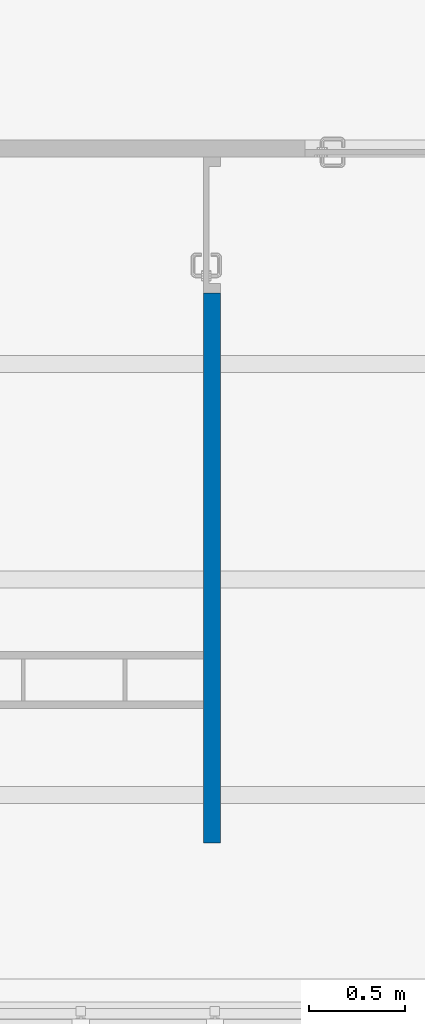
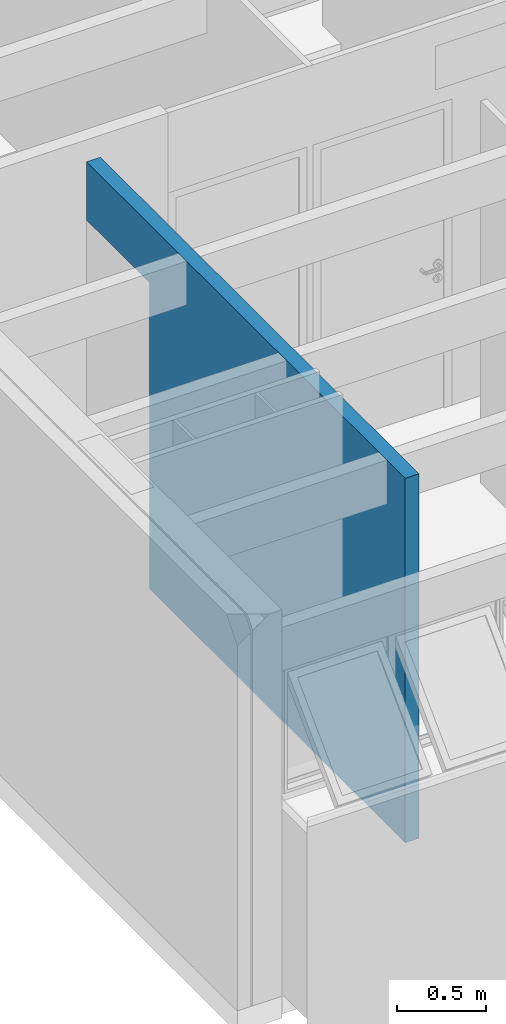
# One storey, part 32 of 40: 1 wall, 1 opening.
"""IFC4 building model written with IfcOpenShell, lengths in millimetres."""

from ifc_helpers import new_model, entity, si_unit, converted_unit, derived_unit, direction, frame, origin_with_axes, origin_2d_with_axis, place, context, subcontext, project, spatial, line, indexed_curve, rectangle, outline, extrude, material, layer, layer_set, layer_usage, type_object, element, save


model = new_model("IFC4")

# Units and contexts
model_context = context("Model", 3, precision=0.01, world=origin_with_axes(), true_north=direction((0.0, 1.0)))
body_context = subcontext(model_context, "Body", "Model", "MODEL_VIEW")
ifc_project = project(units=[si_unit("LENGTHUNIT", "METRE", prefix="MILLI"), si_unit("AREAUNIT", "SQUARE_METRE"), si_unit("VOLUMEUNIT", "CUBIC_METRE"), converted_unit("PLANEANGLEUNIT", "DEGREE", entity("IfcPlaneAngleMeasure", 0.0174532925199), si_unit("PLANEANGLEUNIT", "RADIAN"), dimensions=[0, 0, 0, 0, 0, 0, 0]), converted_unit("TIMEUNIT", "Year", entity("IfcTimeMeasure", 31556926.0), si_unit("TIMEUNIT", "SECOND"), dimensions=[0, 0, 1, 0, 0, 0, 0]), si_unit("MASSUNIT", "GRAM", prefix="KILO"), si_unit("THERMODYNAMICTEMPERATUREUNIT", "DEGREE_CELSIUS"), si_unit("LUMINOUSINTENSITYUNIT", "LUMEN"), si_unit("ENERGYUNIT", "JOULE", prefix="MEGA"), derived_unit("THERMALCONDUCTANCEUNIT", [(si_unit("POWERUNIT", "WATT"), 1), (si_unit("LENGTHUNIT", "METRE"), -1), (si_unit("THERMODYNAMICTEMPERATUREUNIT", "KELVIN"), -1)]), derived_unit("SPECIFICHEATCAPACITYUNIT", [(si_unit("ENERGYUNIT", "JOULE"), 1), (si_unit("MASSUNIT", "GRAM", prefix="KILO"), -1), (si_unit("THERMODYNAMICTEMPERATUREUNIT", "KELVIN"), -1)]), derived_unit("MASSDENSITYUNIT", [(si_unit("MASSUNIT", "GRAM", prefix="KILO"), 1), (si_unit("VOLUMEUNIT", "CUBIC_METRE"), -1)])], contexts=[model_context])

# Site, building, storey
site_placement = place(None, origin_with_axes())
site = spatial("IfcSite", under=ifc_project, at=site_placement, Name="Local", CompositionType="ELEMENT")
building_placement = place(site_placement, origin_with_axes())
building = spatial("IfcBuilding", under=site, at=building_placement, Name="Construção", CompositionType="ELEMENT")
storey_placement = place(building_placement, origin_with_axes())
storey = spatial("IfcBuildingStorey", under=building, at=storey_placement, Name="Primeiro Pavimento", CompositionType="ELEMENT", Elevation=0.0)

# Wall, opening
ifc_material = material(Name="GENÉRICO - VEDAÇÃO EXTERNA")
ifc_layer = layer(ifc_material, 90.0, ventilated="UNKNOWN", Name="GENÉRICO - VEDAÇÃO EXTERNA")
ifc_layer_set = layer_set([ifc_layer], Name="GENÉRICO - VEDAÇÃO EXTERNA 90")
ifc_layer_usage = layer_usage(ifc_layer_set, "AXIS2", "POSITIVE", 0.0)
wall_type = type_object("IfcWallType", Name="GENÉRICO - VEDAÇÃO EXTERNA 90", PredefinedType="NOTDEFINED")
wall_placement = place(storey_placement, frame((1730.0, 18814.7804333, 0.0), z_axis=(0.0, 0.0, 1.0), x_axis=(0.0, 1.0, 0.0)))
wall = element("IfcWall", 1, at=wall_placement, inside=storey, type_object=wall_type, material=ifc_layer_usage, Name="APTO3-PAREDE-012", PredefinedType="NOTDEFINED", context=body_context, shape_type="SweptSolid", body=[
    extrude(outline(indexed_curve([(0.0, 0.0), (3580.0, 0.0), (3580.0, 90.0), (0.0, 90.0)], segments=[line(1, 2, 3, 4, 1)])), origin_with_axes(), (0.0, 0.0, 1.0), 2500.0),
])
opening_placement = place(wall_placement, frame((3225.0, 0.0, 0.0), z_axis=(0.0, 0.0, 1.0), x_axis=(1.0, 0.0, 0.0)))
element("IfcOpeningElement", 2, at=opening_placement, cuts=wall, Name="APTO3-PORTA-003", context=body_context, shape_type="SweptSolid", body=[
    extrude(rectangle(XDim=710.0, YDim=2100.0, at=origin_2d_with_axis()), frame((0.0, 90.0, 1050.0), z_axis=(0.0, -1.0, 0.0), x_axis=(1.0, 0.0, 0.0)), (0.0, 0.0, 1.0), 270.0),
])

save(model, "model.ifc")
